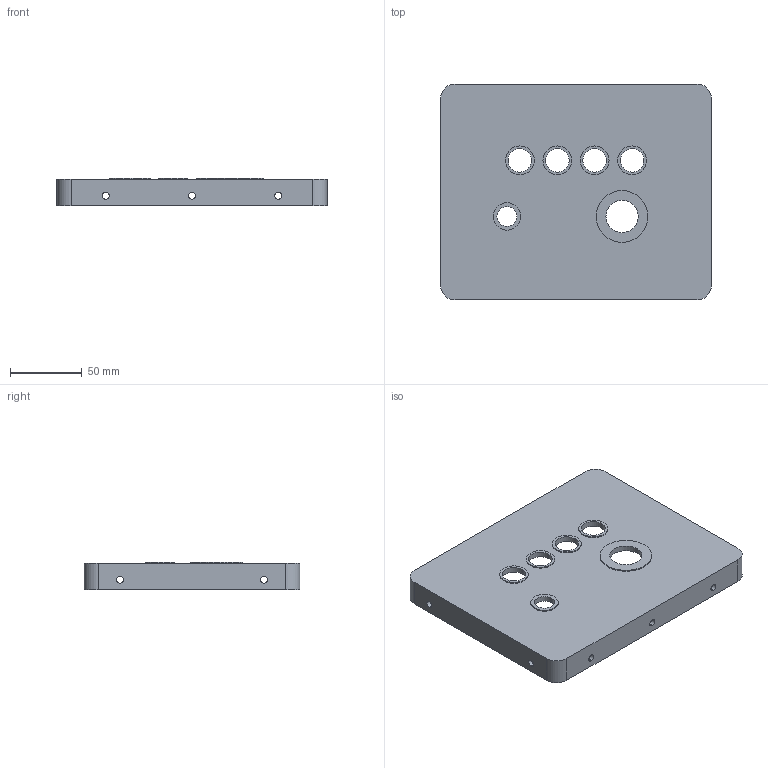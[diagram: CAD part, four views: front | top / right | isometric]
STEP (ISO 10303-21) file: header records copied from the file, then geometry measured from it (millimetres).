
FILE_DESCRIPTION(('CATIA V5 STEP Exchange','CAx-IF Rec.Pracs.--- Model Styling and Organization---1.5--- 2016-08-15','CAx-IF Rec.Pracs.---Supplemental Geometry---1.0---2011-11-01','CAx-IF Rec.Pracs.--- Composite Materials ---3.4---2017-06-13','CAx-IF Rec.Pracs.---Tessellated 3D Geometry---1.0---2015-12-17'),'2;1');
FILE_NAME('C:\Users\icemi\Desktop\RZS_Repository\RES\catia_macros\generated\RES_Enclosure_20260730_154557\RES_TopCover.stp','2026-07-30T07:47:03+00:00',('none'),('none'),'CATIA Version 5-6 Release 2022 SP6','CATIA V5 STEP AP242 v3','none');
FILE_SCHEMA(('AP242_MANAGED_MODEL_BASED_3D_ENGINEERING_MIM_LF {1 0 10303 442 1 1 4}'));
Length unit declared in the file: millimetre
Products named in the file (1): Part3
Bounding box: 188 x 150 x 19.3 mm (x, y, z)
Volume: 118658.2 mm3; surface area: 79537.6 mm2
Topology: 1 solids, 1 shells, 110 faces, 306 edges, 208 vertices
Faces by surface type: cylinder 62, plane 48
Entity records: 3316 total; most frequent: ORIENTED_EDGE 612, CARTESIAN_POINT 578, DIRECTION 432, EDGE_CURVE 306, VERTEX_POINT 208, AXIS2_PLACEMENT_3D 188, VECTOR 182, LINE 182
